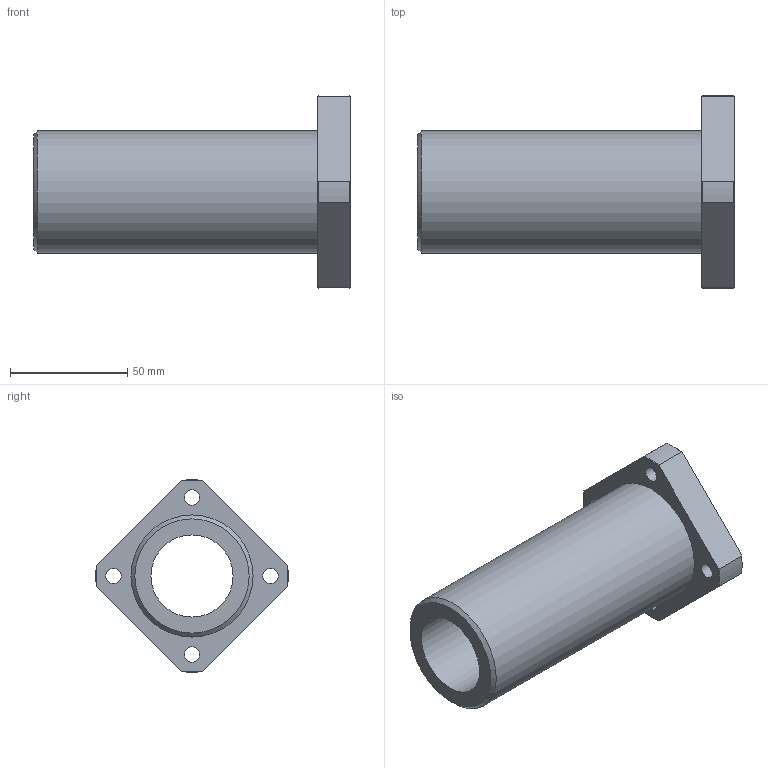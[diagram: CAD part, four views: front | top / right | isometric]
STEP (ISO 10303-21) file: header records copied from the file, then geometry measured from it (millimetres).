
FILE_DESCRIPTION(('STEP AP203'),'1');
FILE_NAME('//192.168.1.1/share/s-4 技術開発/s-4-4_CAD/s-4-4-3_見直し済み/PBC LINEAR修正済み/DFPJ/DFPJ_TOP/DFPJ/DFPJ35.step','2022-03-24T05:03:36',(' '),(' '),'Spatial InterOp 3D',' ',' ');
FILE_SCHEMA(('CONFIG_CONTROL_DESIGN'));
Length unit declared in the file: millimetre
Products named in the file (1): 1
Bounding box: 135 x 81.94 x 81.94 mm (x, y, z)
Volume: 179756.6 mm3; surface area: 45156.5 mm2
Topology: 1 solids, 1 shells, 34 faces, 86 edges, 59 vertices
Faces by surface type: cylinder 14, plane 11, cone 9
Full cylindrical faces by diameter (mm): 6.6 x4, 11 x4, 35 x1, 52 x1
Entity records: 1018 total; most frequent: CARTESIAN_POINT 205, DIRECTION 160, ORIENTED_EDGE 138, AXIS2_PLACEMENT_3D 72, EDGE_CURVE 69, EDGE_LOOP 60, VERTEX_POINT 53, FACE_OUTER_BOUND 44
